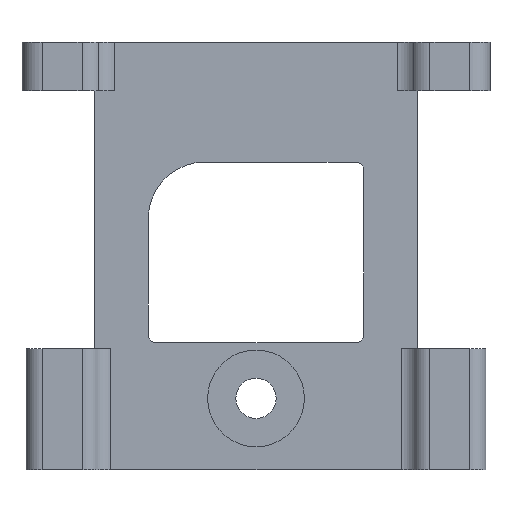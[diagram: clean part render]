
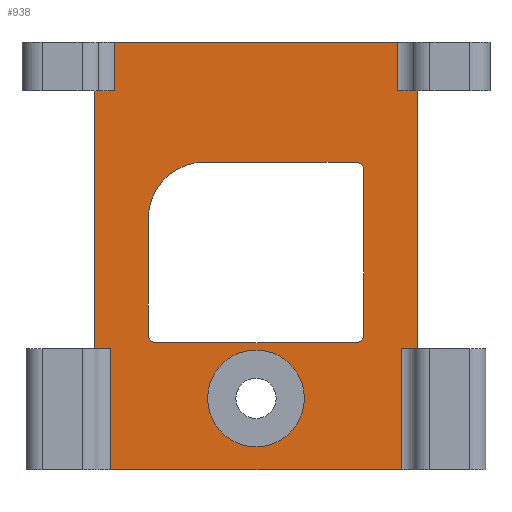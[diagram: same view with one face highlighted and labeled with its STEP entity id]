
A CAD part, front view. The second image highlights one B-rep face of the part: STEP entity #938.
In plain terms, the highlighted planar face has unit normal (0, -1, 0).
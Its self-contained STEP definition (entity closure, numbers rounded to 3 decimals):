
#21=FACE_BOUND('',#127,.T.);
#22=FACE_BOUND('',#128,.T.);
#35=PLANE('',#1033);
#71=FACE_OUTER_BOUND('',#126,.T.);
#126=EDGE_LOOP('',(#729,#730,#731,#732,#733,#734,#735,#736,#737,#738,#739,
#740));
#127=EDGE_LOOP('',(#741));
#128=EDGE_LOOP('',(#742,#743,#744,#745,#746,#747,#748,#749));
#171=LINE('',#1427,#257);
#195=LINE('',#1503,#281);
#204=LINE('',#1521,#290);
#205=LINE('',#1525,#291);
#206=LINE('',#1528,#292);
#207=LINE('',#1530,#293);
#208=LINE('',#1532,#294);
#209=LINE('',#1534,#295);
#210=LINE('',#1536,#296);
#211=LINE('',#1538,#297);
#212=LINE('',#1540,#298);
#213=LINE('',#1541,#299);
#214=LINE('',#1544,#300);
#215=LINE('',#1548,#301);
#216=LINE('',#1552,#302);
#217=LINE('',#1556,#303);
#257=VECTOR('',#1141,10.);
#281=VECTOR('',#1203,10.);
#290=VECTOR('',#1226,10.);
#291=VECTOR('',#1231,10.);
#292=VECTOR('',#1234,10.);
#293=VECTOR('',#1235,10.);
#294=VECTOR('',#1236,10.);
#295=VECTOR('',#1237,2.5);
#296=VECTOR('',#1238,10.);
#297=VECTOR('',#1239,2.5);
#298=VECTOR('',#1240,10.);
#299=VECTOR('',#1241,10.);
#300=VECTOR('',#1242,10.);
#301=VECTOR('',#1245,10.);
#302=VECTOR('',#1248,10.);
#303=VECTOR('',#1251,10.);
#335=CIRCLE('',#983,6.);
#366=CIRCLE('',#1034,0.95);
#367=CIRCLE('',#1035,0.95);
#368=CIRCLE('',#1036,7.);
#369=CIRCLE('',#1037,0.95);
#387=VERTEX_POINT('',#1376);
#405=VERTEX_POINT('',#1424);
#406=VERTEX_POINT('',#1426);
#438=VERTEX_POINT('',#1500);
#439=VERTEX_POINT('',#1502);
#442=VERTEX_POINT('',#1523);
#443=VERTEX_POINT('',#1527);
#444=VERTEX_POINT('',#1529);
#445=VERTEX_POINT('',#1531);
#446=VERTEX_POINT('',#1533);
#447=VERTEX_POINT('',#1535);
#448=VERTEX_POINT('',#1537);
#449=VERTEX_POINT('',#1539);
#450=VERTEX_POINT('',#1542);
#451=VERTEX_POINT('',#1543);
#452=VERTEX_POINT('',#1545);
#453=VERTEX_POINT('',#1547);
#454=VERTEX_POINT('',#1549);
#455=VERTEX_POINT('',#1551);
#456=VERTEX_POINT('',#1553);
#457=VERTEX_POINT('',#1555);
#480=EDGE_CURVE('',#387,#387,#335,.T.);
#503=EDGE_CURVE('',#405,#406,#171,.T.);
#541=EDGE_CURVE('',#439,#438,#195,.T.);
#551=EDGE_CURVE('',#406,#438,#204,.T.);
#553=EDGE_CURVE('',#442,#405,#205,.T.);
#554=EDGE_CURVE('',#442,#443,#206,.T.);
#555=EDGE_CURVE('',#443,#444,#207,.T.);
#556=EDGE_CURVE('',#444,#445,#208,.T.);
#557=EDGE_CURVE('',#446,#445,#209,.T.);
#558=EDGE_CURVE('',#447,#446,#210,.T.);
#559=EDGE_CURVE('',#448,#447,#211,.T.);
#560=EDGE_CURVE('',#448,#449,#212,.T.);
#561=EDGE_CURVE('',#449,#439,#213,.T.);
#562=EDGE_CURVE('',#450,#451,#214,.T.);
#563=EDGE_CURVE('',#452,#451,#366,.T.);
#564=EDGE_CURVE('',#452,#453,#215,.T.);
#565=EDGE_CURVE('',#454,#453,#367,.T.);
#566=EDGE_CURVE('',#454,#455,#216,.T.);
#567=EDGE_CURVE('',#456,#455,#368,.T.);
#568=EDGE_CURVE('',#456,#457,#217,.T.);
#569=EDGE_CURVE('',#450,#457,#369,.T.);
#729=ORIENTED_EDGE('',*,*,#551,.F.);
#730=ORIENTED_EDGE('',*,*,#503,.F.);
#731=ORIENTED_EDGE('',*,*,#553,.F.);
#732=ORIENTED_EDGE('',*,*,#554,.T.);
#733=ORIENTED_EDGE('',*,*,#555,.T.);
#734=ORIENTED_EDGE('',*,*,#556,.T.);
#735=ORIENTED_EDGE('',*,*,#557,.F.);
#736=ORIENTED_EDGE('',*,*,#558,.F.);
#737=ORIENTED_EDGE('',*,*,#559,.F.);
#738=ORIENTED_EDGE('',*,*,#560,.T.);
#739=ORIENTED_EDGE('',*,*,#561,.T.);
#740=ORIENTED_EDGE('',*,*,#541,.T.);
#741=ORIENTED_EDGE('',*,*,#480,.T.);
#742=ORIENTED_EDGE('',*,*,#562,.T.);
#743=ORIENTED_EDGE('',*,*,#563,.F.);
#744=ORIENTED_EDGE('',*,*,#564,.T.);
#745=ORIENTED_EDGE('',*,*,#565,.F.);
#746=ORIENTED_EDGE('',*,*,#566,.T.);
#747=ORIENTED_EDGE('',*,*,#567,.F.);
#748=ORIENTED_EDGE('',*,*,#568,.T.);
#749=ORIENTED_EDGE('',*,*,#569,.F.);
#938=ADVANCED_FACE('',(#71,#21,#22),#35,.T.);
#983=AXIS2_PLACEMENT_3D('',#1378,#1089,#1090);
#1033=AXIS2_PLACEMENT_3D('',#1526,#1232,#1233);
#1034=AXIS2_PLACEMENT_3D('',#1546,#1243,#1244);
#1035=AXIS2_PLACEMENT_3D('',#1550,#1246,#1247);
#1036=AXIS2_PLACEMENT_3D('',#1554,#1249,#1250);
#1037=AXIS2_PLACEMENT_3D('',#1557,#1252,#1253);
#1089=DIRECTION('center_axis',(0.,1.,0.));
#1090=DIRECTION('ref_axis',(1.,0.,0.));
#1141=DIRECTION('',(-1.,0.,0.));
#1203=DIRECTION('',(1.,0.,0.));
#1226=DIRECTION('',(0.,0.,1.));
#1231=DIRECTION('',(0.,0.,-1.));
#1232=DIRECTION('center_axis',(0.,-1.,0.));
#1233=DIRECTION('ref_axis',(0.,0.,-1.));
#1234=DIRECTION('',(1.,0.,0.));
#1235=DIRECTION('',(0.,0.,1.));
#1236=DIRECTION('',(-1.,0.,0.));
#1237=DIRECTION('',(0.,0.,-1.));
#1238=DIRECTION('',(1.,0.,0.));
#1239=DIRECTION('',(0.,0.,1.));
#1240=DIRECTION('',(-1.,0.,0.));
#1241=DIRECTION('',(0.,0.,-1.));
#1242=DIRECTION('',(0.,0.,-1.));
#1243=DIRECTION('center_axis',(0.,-1.,0.));
#1244=DIRECTION('ref_axis',(0.707,0.,-0.707));
#1245=DIRECTION('',(-1.,0.,0.));
#1246=DIRECTION('center_axis',(0.,-1.,0.));
#1247=DIRECTION('ref_axis',(-0.707,0.,-0.707));
#1248=DIRECTION('',(0.,0.,1.));
#1249=DIRECTION('center_axis',(0.,-1.,0.));
#1250=DIRECTION('ref_axis',(-0.707,0.,0.707));
#1251=DIRECTION('',(1.,0.,0.));
#1252=DIRECTION('center_axis',(0.,-1.,0.));
#1253=DIRECTION('ref_axis',(0.707,0.,0.707));
#1376=CARTESIAN_POINT('',(-6.,-6.,1.35));
#1378=CARTESIAN_POINT('Origin',(0.,-6.,1.35));
#1424=CARTESIAN_POINT('',(18.,-6.,-7.5));
#1426=CARTESIAN_POINT('',(-18.,-6.,-7.5));
#1427=CARTESIAN_POINT('',(-14.25,-6.,-7.5));
#1500=CARTESIAN_POINT('',(-18.,-6.,7.5));
#1502=CARTESIAN_POINT('',(-20.,-6.,7.5));
#1503=CARTESIAN_POINT('',(14.25,-6.,7.5));
#1521=CARTESIAN_POINT('',(-18.,-6.,34.5));
#1523=CARTESIAN_POINT('',(18.,-6.,7.5));
#1525=CARTESIAN_POINT('',(18.,-6.,8.));
#1526=CARTESIAN_POINT('Origin',(0.,-6.,23.5));
#1527=CARTESIAN_POINT('',(20.,-6.,7.5));
#1528=CARTESIAN_POINT('',(14.25,-6.,7.5));
#1529=CARTESIAN_POINT('',(20.,-6.,39.5));
#1530=CARTESIAN_POINT('',(20.,-6.,39.5));
#1531=CARTESIAN_POINT('',(17.551,-6.,39.5));
#1532=CARTESIAN_POINT('',(-14.5,-6.,39.5));
#1533=CARTESIAN_POINT('',(17.551,-6.,45.5));
#1534=CARTESIAN_POINT('',(17.551,-6.,17.5));
#1535=CARTESIAN_POINT('',(-17.551,-6.,45.5));
#1536=CARTESIAN_POINT('',(14.5,-6.,45.5));
#1537=CARTESIAN_POINT('',(-17.551,-6.,39.5));
#1538=CARTESIAN_POINT('',(-17.551,-6.,44.));
#1539=CARTESIAN_POINT('',(-20.,-6.,39.5));
#1540=CARTESIAN_POINT('',(-14.5,-6.,39.5));
#1541=CARTESIAN_POINT('',(-20.,-6.,7.5));
#1542=CARTESIAN_POINT('',(13.35,-6.,29.69));
#1543=CARTESIAN_POINT('',(13.35,-6.,9.19));
#1544=CARTESIAN_POINT('',(13.35,-6.,30.64));
#1545=CARTESIAN_POINT('',(12.4,-6.,8.24));
#1546=CARTESIAN_POINT('Origin',(12.4,-6.,9.19));
#1547=CARTESIAN_POINT('',(-12.4,-6.,8.24));
#1548=CARTESIAN_POINT('',(13.35,-6.,8.24));
#1549=CARTESIAN_POINT('',(-13.35,-6.,9.19));
#1550=CARTESIAN_POINT('Origin',(-12.4,-6.,9.19));
#1551=CARTESIAN_POINT('',(-13.35,-6.,23.64));
#1552=CARTESIAN_POINT('',(-13.35,-6.,8.24));
#1553=CARTESIAN_POINT('',(-6.35,-6.,30.64));
#1554=CARTESIAN_POINT('Origin',(-6.35,-6.,23.64));
#1555=CARTESIAN_POINT('',(12.4,-6.,30.64));
#1556=CARTESIAN_POINT('',(-13.35,-6.,30.64));
#1557=CARTESIAN_POINT('Origin',(12.4,-6.,29.69));
